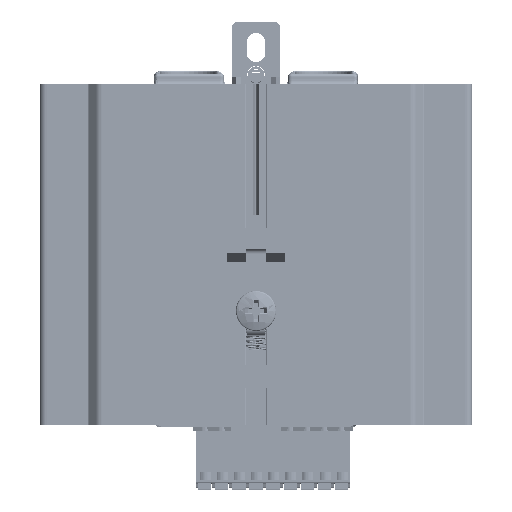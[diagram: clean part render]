
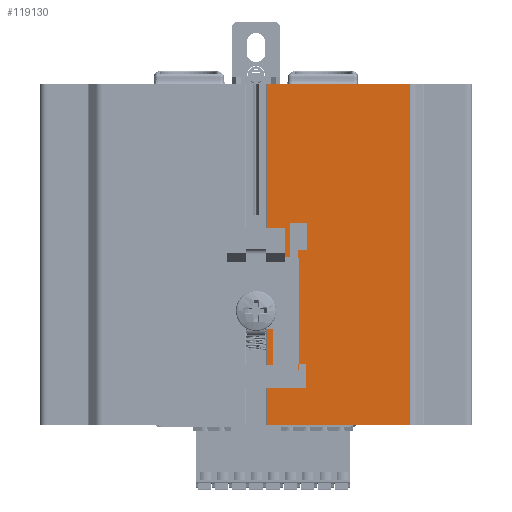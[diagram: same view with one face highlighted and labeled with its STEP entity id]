
A CAD part, front view. The second image highlights one B-rep face of the part: STEP entity #119130.
In plain terms, the highlighted planar face has unit normal (0, -1, 0).
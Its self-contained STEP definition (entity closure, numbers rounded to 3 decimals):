
#100522=DIRECTION('',(1.,0.,0.));
#100523=VECTOR('',#100522,41.864);
#100524=CARTESIAN_POINT('',(610.97,174.585,0.));
#100525=LINE('',#100524,#100523);
#102290=DIRECTION('',(1.,0.,0.));
#102291=VECTOR('',#102290,41.864);
#102292=CARTESIAN_POINT('',(610.97,174.585,-100.));
#102293=LINE('',#102292,#102291);
#106564=DIRECTION('',(0.,0.,-1.));
#106565=VECTOR('',#106564,100.);
#106566=CARTESIAN_POINT('',(652.834,174.585,0.));
#106567=LINE('',#106566,#106565);
#106568=DIRECTION('',(0.,0.,-1.));
#106569=VECTOR('',#106568,100.);
#106570=CARTESIAN_POINT('',(610.97,174.585,0.));
#106571=LINE('',#106570,#106569);
#107585=CARTESIAN_POINT('',(610.97,174.585,0.));
#107586=VERTEX_POINT('',#107585);
#107587=CARTESIAN_POINT('',(652.834,174.585,0.));
#107588=VERTEX_POINT('',#107587);
#107703=CARTESIAN_POINT('',(610.97,174.585,-100.));
#107704=VERTEX_POINT('',#107703);
#107705=CARTESIAN_POINT('',(652.834,174.585,-100.));
#107706=VERTEX_POINT('',#107705);
#119118=CARTESIAN_POINT('',(610.97,174.585,0.));
#119119=DIRECTION('',(0.,-1.,0.));
#119120=DIRECTION('',(1.,0.,0.));
#119121=AXIS2_PLACEMENT_3D('',#119118,#119119,#119120);
#119122=PLANE('',#119121);
#119123=ORIENTED_EDGE('',*,*,#111338,.T.);
#119124=ORIENTED_EDGE('',*,*,#119113,.T.);
#119125=ORIENTED_EDGE('',*,*,#112117,.F.);
#119127=ORIENTED_EDGE('',*,*,#119126,.F.);
#119128=EDGE_LOOP('',(#119123,#119124,#119125,#119127));
#119129=FACE_OUTER_BOUND('',#119128,.F.);
#111338=EDGE_CURVE('',#107586,#107588,#100525,.T.);
#112117=EDGE_CURVE('',#107704,#107706,#102293,.T.);
#119113=EDGE_CURVE('',#107588,#107706,#106567,.T.);
#119126=EDGE_CURVE('',#107586,#107704,#106571,.T.);
#119130=ADVANCED_FACE('',(#119129),#119122,.T.);
